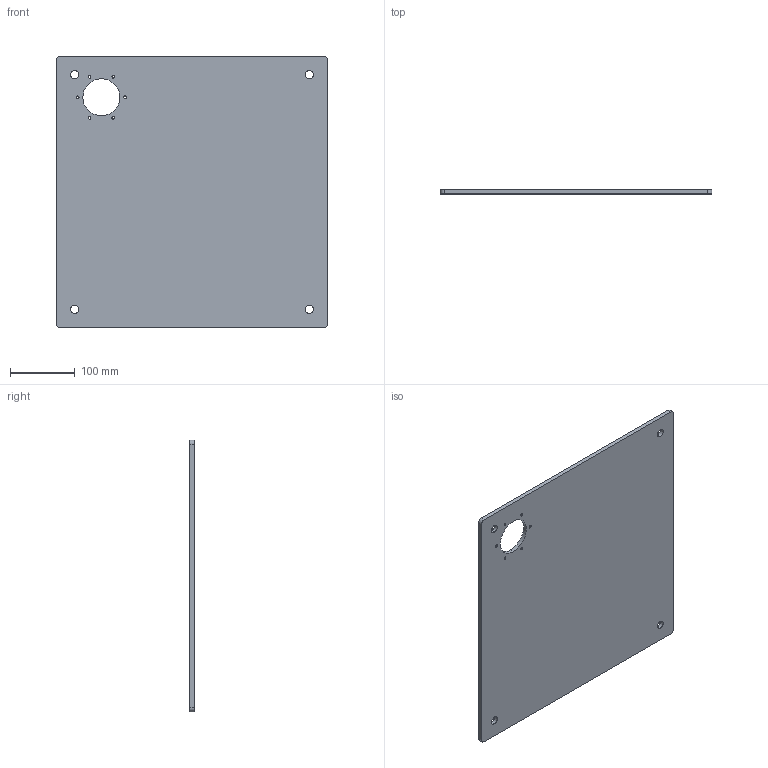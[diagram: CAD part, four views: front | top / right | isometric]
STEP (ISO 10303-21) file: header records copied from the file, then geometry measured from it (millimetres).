
FILE_DESCRIPTION (( 'STEP AP214' ), '1' );
FILE_NAME ('TVL-934-STEP.STEP', '2024-07-23T12:32:20', ( '' ), ( '' ), 'SwSTEP 2.0', 'SolidWorks 2013', '' );
FILE_SCHEMA (( 'AUTOMOTIVE_DESIGN' ));
Length unit declared in the file: inch
Products named in the file (1): TVL-934-STEP
Bounding box: 419.1 x 6.35 x 419.1 mm (x, y, z)
Volume: 1095130 mm3; surface area: 358135.7 mm2
Topology: 1 solids, 1 shells, 32 faces, 90 edges, 60 vertices
Faces by surface type: cylinder 26, plane 6
Entity records: 1306 total; most frequent: DIRECTION 208, CARTESIAN_POINT 183, ORIENTED_EDGE 180, EDGE_CURVE 90, AXIS2_PLACEMENT_3D 85, VERTEX_POINT 60, EDGE_LOOP 54, CIRCLE 52
